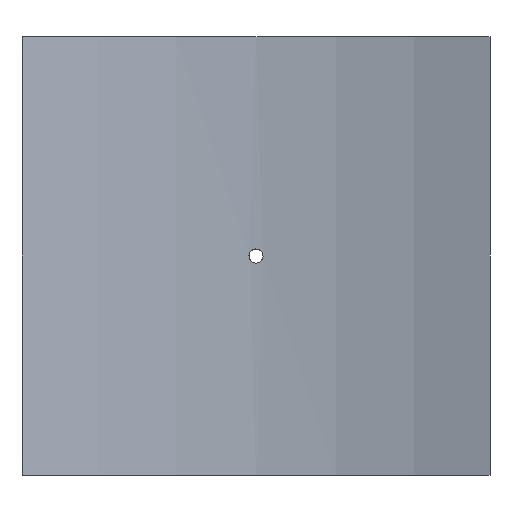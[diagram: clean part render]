
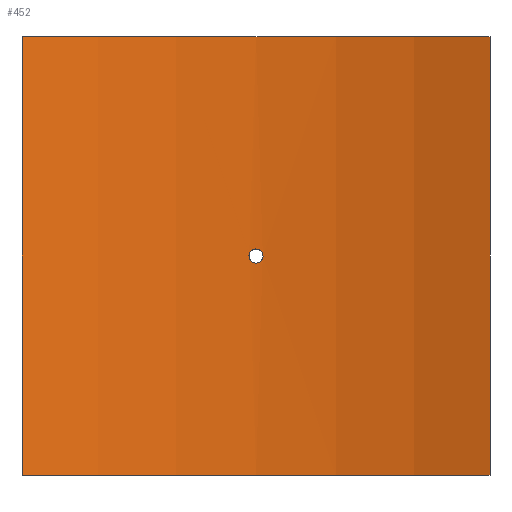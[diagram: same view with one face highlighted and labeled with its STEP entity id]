
A CAD part, front view. The second image highlights one B-rep face of the part: STEP entity #452.
In plain terms, the highlighted cylindrical face has radius 450 mm (diameter 900 mm), a partial arc.
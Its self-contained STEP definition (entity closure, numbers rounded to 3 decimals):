
#19=B_SPLINE_CURVE_WITH_KNOTS('',3,(#788,#789,#790,#791,#792,#793,#794,
#795,#796,#797,#798,#799,#800,#801,#802,#803,#804,#805,#806,#807,#808,#809,
#810,#811,#812,#813,#814,#815,#816,#817,#818,#819,#820,#821),
 .UNSPECIFIED.,.T.,.F.,(4,2,2,2,2,2,2,2,2,2,2,2,2,2,2,2,4),(0.,0.181,
0.362,0.542,0.723,0.904,
1.085,1.266,1.446,1.627,1.808,
1.989,2.17,2.351,2.531,2.712,
2.893),.UNSPECIFIED.);
#43=LINE('',#1065,#62);
#44=LINE('',#1068,#63);
#62=VECTOR('',#661,10.);
#63=VECTOR('',#664,10.);
#76=CYLINDRICAL_SURFACE('',#530,450.);
#88=FACE_BOUND('',#167,.T.);
#127=FACE_OUTER_BOUND('',#166,.T.);
#166=EDGE_LOOP('',(#405,#406,#407,#408));
#167=EDGE_LOOP('',(#409));
#201=CIRCLE('',#529,450.);
#202=CIRCLE('',#531,450.);
#219=VERTEX_POINT('',#786);
#242=VERTEX_POINT('',#1058);
#243=VERTEX_POINT('',#1060);
#244=VERTEX_POINT('',#1064);
#245=VERTEX_POINT('',#1066);
#267=EDGE_CURVE('',#219,#219,#19,.T.);
#299=EDGE_CURVE('',#242,#243,#201,.T.);
#301=EDGE_CURVE('',#244,#242,#43,.T.);
#302=EDGE_CURVE('',#245,#244,#202,.T.);
#303=EDGE_CURVE('',#245,#243,#44,.T.);
#405=ORIENTED_EDGE('',*,*,#301,.F.);
#406=ORIENTED_EDGE('',*,*,#302,.F.);
#407=ORIENTED_EDGE('',*,*,#303,.T.);
#408=ORIENTED_EDGE('',*,*,#299,.F.);
#409=ORIENTED_EDGE('',*,*,#267,.T.);
#452=ADVANCED_FACE('',(#127,#88),#76,.F.);
#529=AXIS2_PLACEMENT_3D('',#1061,#656,#657);
#530=AXIS2_PLACEMENT_3D('',#1063,#659,#660);
#531=AXIS2_PLACEMENT_3D('',#1067,#662,#663);
#656=DIRECTION('center_axis',(0.,0.,1.));
#657=DIRECTION('ref_axis',(0.356,0.935,0.));
#659=DIRECTION('center_axis',(0.,0.,1.));
#660=DIRECTION('ref_axis',(0.356,0.935,0.));
#661=DIRECTION('',(0.,0.,-1.));
#662=DIRECTION('center_axis',(0.,0.,-1.));
#663=DIRECTION('ref_axis',(0.356,0.935,0.));
#664=DIRECTION('',(0.,0.,-1.));
#786=CARTESIAN_POINT('',(4.8,449.974,0.));
#788=CARTESIAN_POINT('Ctrl Pts',(4.8,449.974,0.));
#789=CARTESIAN_POINT('Ctrl Pts',(4.8,449.974,-0.603));
#790=CARTESIAN_POINT('Ctrl Pts',(4.68,449.976,-1.246));
#791=CARTESIAN_POINT('Ctrl Pts',(4.19,449.981,-2.428));
#792=CARTESIAN_POINT('Ctrl Pts',(3.82,449.984,-2.968));
#793=CARTESIAN_POINT('Ctrl Pts',(2.968,449.99,-3.82));
#794=CARTESIAN_POINT('Ctrl Pts',(2.428,449.994,-4.19));
#795=CARTESIAN_POINT('Ctrl Pts',(1.246,449.999,-4.68));
#796=CARTESIAN_POINT('Ctrl Pts',(0.603,450.,-4.8));
#797=CARTESIAN_POINT('Ctrl Pts',(-0.603,450.,-4.8));
#798=CARTESIAN_POINT('Ctrl Pts',(-1.246,449.999,-4.68));
#799=CARTESIAN_POINT('Ctrl Pts',(-2.428,449.994,-4.19));
#800=CARTESIAN_POINT('Ctrl Pts',(-2.968,449.99,-3.82));
#801=CARTESIAN_POINT('Ctrl Pts',(-3.82,449.984,-2.968));
#802=CARTESIAN_POINT('Ctrl Pts',(-4.19,449.981,-2.428));
#803=CARTESIAN_POINT('Ctrl Pts',(-4.68,449.976,-1.246));
#804=CARTESIAN_POINT('Ctrl Pts',(-4.8,449.974,-0.603));
#805=CARTESIAN_POINT('Ctrl Pts',(-4.8,449.974,0.603));
#806=CARTESIAN_POINT('Ctrl Pts',(-4.68,449.976,1.246));
#807=CARTESIAN_POINT('Ctrl Pts',(-4.19,449.981,2.428));
#808=CARTESIAN_POINT('Ctrl Pts',(-3.82,449.984,2.968));
#809=CARTESIAN_POINT('Ctrl Pts',(-2.968,449.99,3.82));
#810=CARTESIAN_POINT('Ctrl Pts',(-2.428,449.994,4.19));
#811=CARTESIAN_POINT('Ctrl Pts',(-1.246,449.999,4.68));
#812=CARTESIAN_POINT('Ctrl Pts',(-0.603,450.,4.8));
#813=CARTESIAN_POINT('Ctrl Pts',(0.603,450.,4.8));
#814=CARTESIAN_POINT('Ctrl Pts',(1.246,449.999,4.68));
#815=CARTESIAN_POINT('Ctrl Pts',(2.428,449.994,4.19));
#816=CARTESIAN_POINT('Ctrl Pts',(2.968,449.99,3.82));
#817=CARTESIAN_POINT('Ctrl Pts',(3.82,449.984,2.968));
#818=CARTESIAN_POINT('Ctrl Pts',(4.19,449.981,2.428));
#819=CARTESIAN_POINT('Ctrl Pts',(4.68,449.976,1.246));
#820=CARTESIAN_POINT('Ctrl Pts',(4.8,449.974,0.603));
#821=CARTESIAN_POINT('Ctrl Pts',(4.8,449.974,0.));
#1058=CARTESIAN_POINT('',(160.,420.595,-150.));
#1060=CARTESIAN_POINT('',(-160.,420.595,-150.));
#1061=CARTESIAN_POINT('Origin',(0.,0.,
-150.));
#1063=CARTESIAN_POINT('Origin',(0.,0.,
0.));
#1064=CARTESIAN_POINT('',(160.,420.595,150.));
#1065=CARTESIAN_POINT('',(160.,420.595,0.));
#1066=CARTESIAN_POINT('',(-160.,420.595,150.));
#1067=CARTESIAN_POINT('Origin',(0.,0.,
150.));
#1068=CARTESIAN_POINT('',(-160.,420.595,0.));
